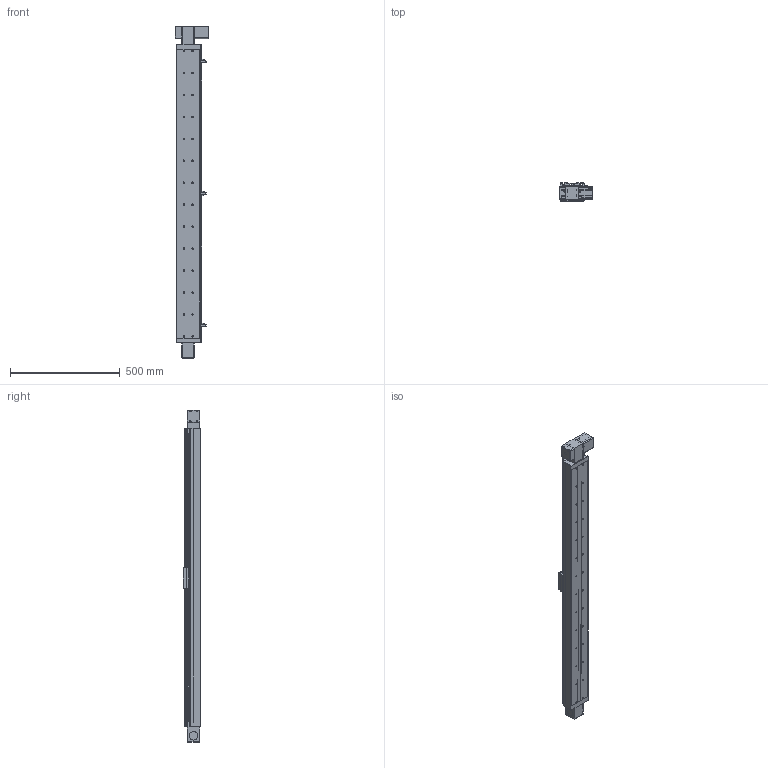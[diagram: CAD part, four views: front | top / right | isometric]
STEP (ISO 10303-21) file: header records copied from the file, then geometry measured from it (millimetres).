
FILE_DESCRIPTION((''),'2;1');
FILE_NAME('E:\uia actuator\UIA actuator 3d- 2015\Belt drive actuator\UIA110BR12(15)DC\UIA110BR12(15)DC-STEP FILE\UIA110BR12(15) stp file 13May16\UIA110BR12(15)DC-1200-M23-P13-C10-S.stp','2016-05-16T09:27:14',('h029'),(''),'Autodesk Inventor 11','Autodesk Inventor 11','');
FILE_SCHEMA(('AUTOMOTIVE_DESIGN { 1 0 10303 214 1 1 1 1 }'));
Length unit declared in the file: millimetre
Products named in the file (11): UIA110BR12(15)DC-1200; UIA110BR12(15)DC-1200-body; UIA110BR12(15)DC-1200-Sensor rail; UIA110B-Carriage; UIA110B- Sensor Flag; UIA110B-Cover; SOH-32C; SOH-32C-3; SOH-32C-1; SOH-32C-2; Motor mount
Assembly tree (10 placements, depth 3):
  UIA110BR12(15)DC-1200
    UIA110BR12(15)DC-1200-body
    UIA110BR12(15)DC-1200-Sensor rail
    UIA110B-Carriage
    UIA110B- Sensor Flag
    UIA110B-Cover
    SOH-32C
      SOH-32C-3
      SOH-32C-1
      SOH-32C-2
    Motor mount
Bounding box: 152 x 81 x 1511 mm (x, y, z)
Volume: 4447645 mm3; surface area: 1307258.2 mm2
Topology: 9 solids, 13 shells, 788 faces, 2218 edges, 1416 vertices
Faces by surface type: plane 487, cylinder 211, cone 42, bspline 40, sphere 8
Full cylindrical faces by diameter (mm): 2.459 x4, 3 x2, 3.242 x8, 3.5 x4, 4 x10, 4.5 x4, 4.917 x8, 5 x2, 6.35 x1, 6.5 x28, 7.5 x4, 10 x3, 11 x28, 12 x1, 20 x2, 32 x3, 37 x1, 38.1 x1, 39 x2, 43.5 x1, 46 x2
Entity records: 26698 total; most frequent: CARTESIAN_POINT 7029, DIRECTION 4023, ORIENTED_EDGE 3822, EDGE_CURVE 1911, AXIS2_PLACEMENT_3D 1396, VERTEX_POINT 1312, VECTOR 1231, LINE 1231
